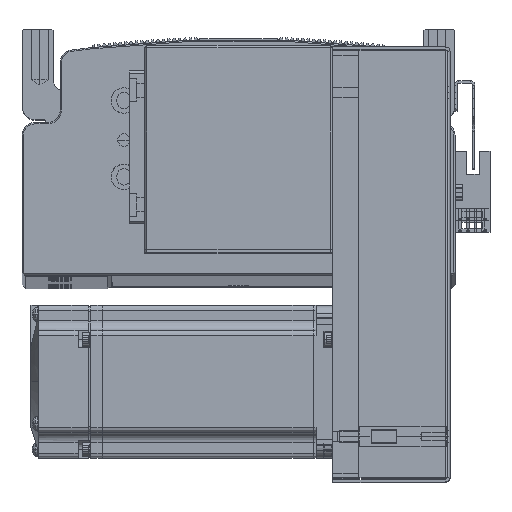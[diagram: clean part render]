
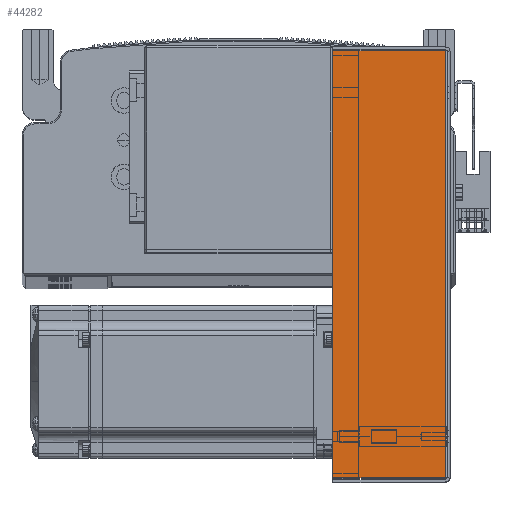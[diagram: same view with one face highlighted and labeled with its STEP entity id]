
A CAD part, top view. The second image highlights one B-rep face of the part: STEP entity #44282.
In plain terms, the highlighted planar face has unit normal (0, 0, 1) as drawn and (0, 0, -1) by its records, which use the part's own axes.
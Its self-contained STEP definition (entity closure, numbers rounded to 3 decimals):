
#3942 = VECTOR ( 'NONE', #16329, 1000. ) ;
#3962 = LINE ( 'NONE', #16338, #3942 ) ;
#3963 = LINE ( 'NONE', #16411, #3972 ) ;
#3972 = VECTOR ( 'NONE', #16419, 1000. ) ;
#4020 = LINE ( 'NONE', #16570, #4031 ) ;
#4031 = VECTOR ( 'NONE', #16597, 1000. ) ;
#4072 = VECTOR ( 'NONE', #16476, 1000. ) ;
#4085 = LINE ( 'NONE', #16470, #4072 ) ;
#16329 = DIRECTION ( 'NONE',  ( 0., 1., 0. ) ) ;
#16338 = CARTESIAN_POINT ( 'NONE',  ( 83.793, 0., -40.5 ) ) ;
#16411 = CARTESIAN_POINT ( 'NONE',  ( -83.793, 0., -40.5 ) ) ;
#16419 = DIRECTION ( 'NONE',  ( 0., 1., 0. ) ) ;
#16470 = CARTESIAN_POINT ( 'NONE',  ( 0., 0.737, -40.5 ) ) ;
#16476 = DIRECTION ( 'NONE',  ( 1., 0., 0. ) ) ;
#16570 = CARTESIAN_POINT ( 'NONE',  ( 84.5, 45., -40.5 ) ) ;
#16597 = DIRECTION ( 'NONE',  ( 1., 0., 0. ) ) ;
#19221 = FACE_OUTER_BOUND ( 'NONE', #37635, .T. ) ;
#37635 = EDGE_LOOP ( 'NONE', ( #88564, #88552, #88492, #88523 ) ) ;
#44282 = ADVANCED_FACE ( 'NONE', ( #19221 ), #55271, .F. ) ;
#55271 = PLANE ( 'NONE',  #86496 ) ;
#55289 = DIRECTION ( 'NONE',  ( 0., 0., 1. ) ) ;
#55304 = CARTESIAN_POINT ( 'NONE',  ( 0., 0., -40.5 ) ) ;
#55307 = DIRECTION ( 'NONE',  ( 0., -1., 0. ) ) ;
#70166 = VERTEX_POINT ( 'NONE', #82748 ) ;
#70205 = VERTEX_POINT ( 'NONE', #82267 ) ;
#70214 = VERTEX_POINT ( 'NONE', #82278 ) ;
#70300 = VERTEX_POINT ( 'NONE', #82304 ) ;
#74988 = EDGE_CURVE ( 'NONE', #70205, #70300, #3962, .T. ) ;
#75001 = EDGE_CURVE ( 'NONE', #70214, #70166, #3963, .T. ) ;
#75042 = EDGE_CURVE ( 'NONE', #70214, #70205, #4085, .T. ) ;
#75075 = EDGE_CURVE ( 'NONE', #70166, #70300, #4020, .T. ) ;
#82267 = CARTESIAN_POINT ( 'NONE',  ( 83.793, 0.737, -40.5 ) ) ;
#82278 = CARTESIAN_POINT ( 'NONE',  ( -83.793, 0.737, -40.5 ) ) ;
#82304 = CARTESIAN_POINT ( 'NONE',  ( 83.793, 45., -40.5 ) ) ;
#82748 = CARTESIAN_POINT ( 'NONE',  ( -83.793, 45., -40.5 ) ) ;
#86496 = AXIS2_PLACEMENT_3D ( 'NONE', #55304, #55289, #55307 ) ;
#88492 = ORIENTED_EDGE ( 'NONE', *, *, #75075, .T. ) ;
#88523 = ORIENTED_EDGE ( 'NONE', *, *, #74988, .F. ) ;
#88552 = ORIENTED_EDGE ( 'NONE', *, *, #75001, .T. ) ;
#88564 = ORIENTED_EDGE ( 'NONE', *, *, #75042, .F. ) ;
